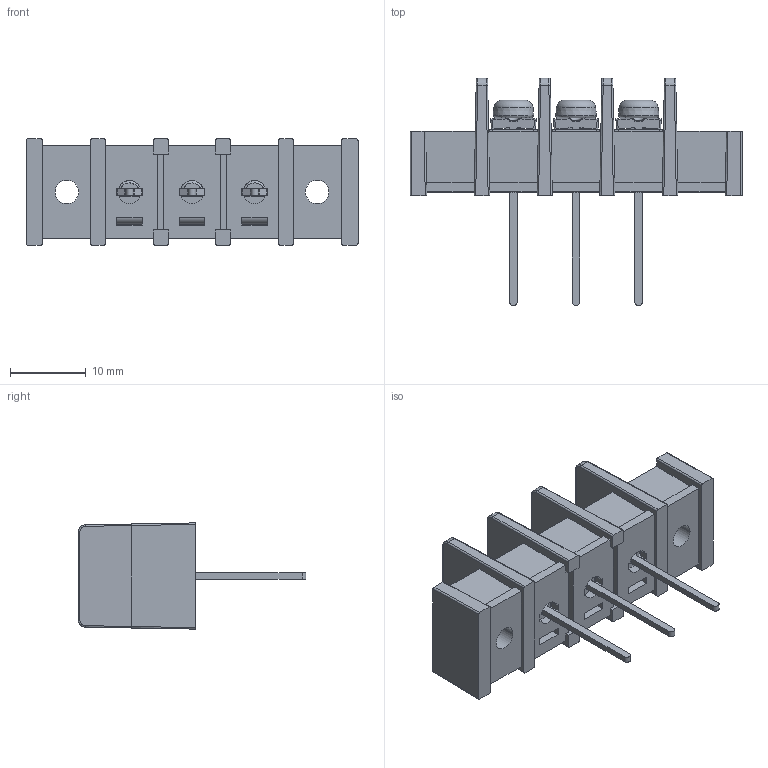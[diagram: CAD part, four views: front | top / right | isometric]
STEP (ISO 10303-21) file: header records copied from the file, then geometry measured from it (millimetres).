
FILE_DESCRIPTION((''),'2;1');
FILE_NAME('3PIN','2021-05-07T',('hanke'),(''),'CREO PARAMETRIC BY PTC INC, 2016260','CREO PARAMETRIC BY PTC INC, 2016260','');
FILE_SCHEMA(('CONFIG_CONTROL_DESIGN'));
Products named in the file (1): 3PIN
Bounding box: 43.75 x 30 x 14 mm (x, y, z)
Volume: 3962.2 mm3; surface area: 6522.6 mm2
Topology: 1 solids, 1 shells, 1150 faces, 3311 edges, 2152 vertices
Faces by surface type: plane 667, cylinder 242, torus 106, bspline 75, sphere 42, cone 18
Entity records: 54287 total; most frequent: CARTESIAN_POINT 24941, ORIENTED_EDGE 6610, DIRECTION 5555, EDGE_CURVE 3305, VERTEX_POINT 2152, VECTOR 1923, LINE 1923, AXIS2_PLACEMENT_3D 1816
